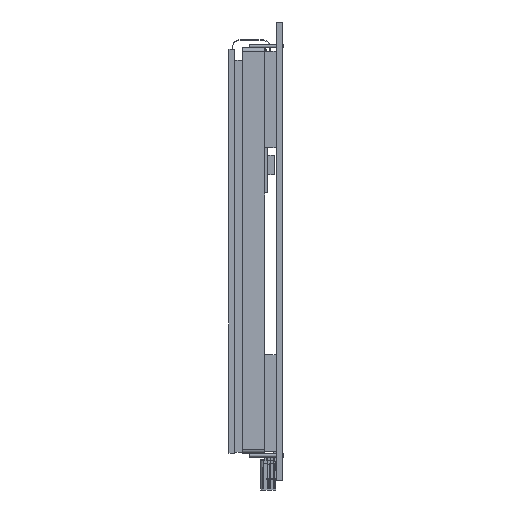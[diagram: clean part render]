
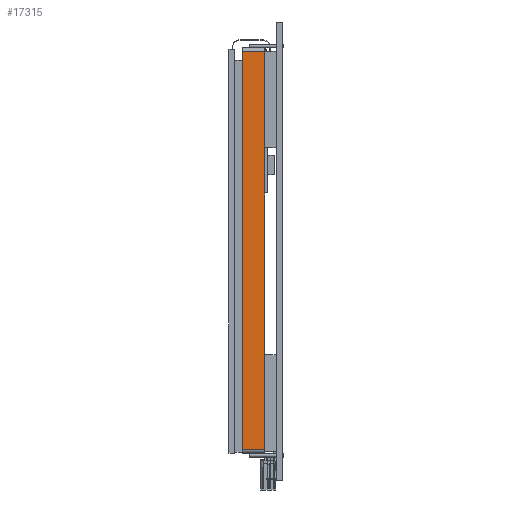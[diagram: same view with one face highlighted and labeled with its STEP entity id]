
A CAD part, left-side view. The second image highlights one B-rep face of the part: STEP entity #17315.
In plain terms, the highlighted planar face has unit normal (-1, 0, 0).
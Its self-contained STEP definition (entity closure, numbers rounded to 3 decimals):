
#1492 = CARTESIAN_POINT ( 'NONE',  ( -52.44, 4.6, -20.785 ) ) ;
#2094 = LINE ( 'NONE', #49892, #47608 ) ;
#2294 = PLANE ( 'NONE',  #45037 ) ;
#7403 = DIRECTION ( 'NONE',  ( 0., 0., 1. ) ) ;
#9042 = VECTOR ( 'NONE', #53791, 1000. ) ;
#11361 = CARTESIAN_POINT ( 'NONE',  ( -52.44, 10.3, 82.015 ) ) ;
#11365 = DIRECTION ( 'NONE',  ( 0., 0., -1. ) ) ;
#12891 = LINE ( 'NONE', #19576, #33610 ) ;
#13031 = ORIENTED_EDGE ( 'NONE', *, *, #26342, .T. ) ;
#16901 = CARTESIAN_POINT ( 'NONE',  ( -52.44, 10.3, -20.785 ) ) ;
#17278 = VERTEX_POINT ( 'NONE', #28567 ) ;
#17315 = ADVANCED_FACE ( 'NONE', ( #24311 ), #2294, .F. ) ;
#17702 = EDGE_CURVE ( 'NONE', #17278, #19432, #44226, .T. ) ;
#19244 = DIRECTION ( 'NONE',  ( 0., -1., 0. ) ) ;
#19432 = VERTEX_POINT ( 'NONE', #11361 ) ;
#19576 = CARTESIAN_POINT ( 'NONE',  ( -52.44, 10.3, -21.785 ) ) ;
#22886 = EDGE_LOOP ( 'NONE', ( #49120, #25471, #23343, #13031 ) ) ;
#23343 = ORIENTED_EDGE ( 'NONE', *, *, #52113, .F. ) ;
#24311 = FACE_OUTER_BOUND ( 'NONE', #22886, .T. ) ;
#24478 = CARTESIAN_POINT ( 'NONE',  ( -52.44, 10.3, -21.785 ) ) ;
#25471 = ORIENTED_EDGE ( 'NONE', *, *, #17702, .T. ) ;
#26342 = EDGE_CURVE ( 'NONE', #50130, #40300, #2094, .T. ) ;
#28567 = CARTESIAN_POINT ( 'NONE',  ( -52.44, 4.6, 82.015 ) ) ;
#30371 = VECTOR ( 'NONE', #7403, 1000. ) ;
#33610 = VECTOR ( 'NONE', #54883, 1000. ) ;
#37814 = DIRECTION ( 'NONE',  ( 1., 0., 0. ) ) ;
#40300 = VERTEX_POINT ( 'NONE', #1492 ) ;
#40506 = EDGE_CURVE ( 'NONE', #40300, #17278, #53859, .T. ) ;
#44226 = LINE ( 'NONE', #49314, #9042 ) ;
#45037 = AXIS2_PLACEMENT_3D ( 'NONE', #24478, #37814, #11365 ) ;
#46945 = CARTESIAN_POINT ( 'NONE',  ( -52.44, 4.6, -21.785 ) ) ;
#47608 = VECTOR ( 'NONE', #19244, 1000. ) ;
#49120 = ORIENTED_EDGE ( 'NONE', *, *, #40506, .T. ) ;
#49314 = CARTESIAN_POINT ( 'NONE',  ( -52.44, 10.3, 82.015 ) ) ;
#49892 = CARTESIAN_POINT ( 'NONE',  ( -52.44, 10.3, -20.785 ) ) ;
#50130 = VERTEX_POINT ( 'NONE', #16901 ) ;
#52113 = EDGE_CURVE ( 'NONE', #50130, #19432, #12891, .T. ) ;
#53791 = DIRECTION ( 'NONE',  ( 0., 1., 0. ) ) ;
#53859 = LINE ( 'NONE', #46945, #30371 ) ;
#54883 = DIRECTION ( 'NONE',  ( 0., 0., 1. ) ) ;
